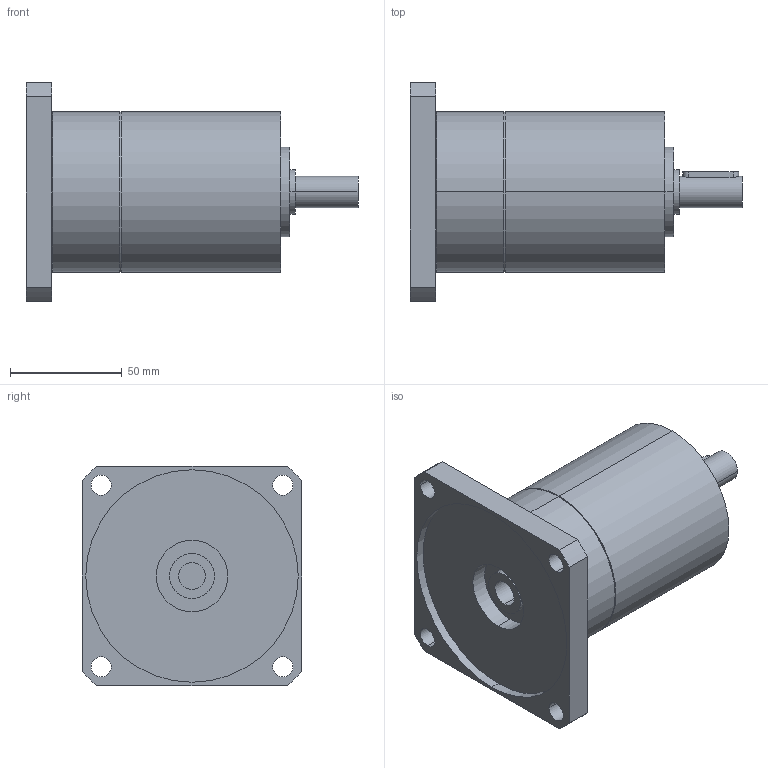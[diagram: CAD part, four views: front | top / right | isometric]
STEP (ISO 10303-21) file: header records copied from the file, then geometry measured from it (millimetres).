
FILE_DESCRIPTION(('CoCreate Modeling STEP Export'),'2;1');
FILE_NAME('GPT75_ig-9-12-16-20-25-28-35-40-50-70-100_14_B14T_12_P08.stp','2014-08-27T13:16:13',(''),(''),'CoCreate Modeling STEP processor for AP214 (Solid Model)','CoCreate Modeling 16.00C 25-Feb-2009 (C) Parametric Technology GmbH','');
FILE_SCHEMA(('AUTOMOTIVE_DESIGN { 1 0 10303 214 1 1 1 1 }'));
Length unit declared in the file: millimetre
Products named in the file (2): GPT75_ig-9-12-16-20-25-28-35-40-50-70-100_14_B14T_12_P08
Assembly tree (1 placements, depth 2):
  GPT75_ig-9-12-16-20-25-28-35-40-50-70-100_14_B14T_12_P08
    GPT75_ig-9-12-16-20-25-28-35-40-50-70-100_14_B14T_12_P08
Bounding box: 148.5 x 98 x 98 mm (x, y, z)
Volume: 496377.2 mm3; surface area: 53901.4 mm2
Topology: 1 solids, 1 shells, 69 faces, 161 edges, 108 vertices
Faces by surface type: cylinder 42, plane 23, cone 4
Entity records: 2136 total; most frequent: CARTESIAN_POINT 659, ORIENTED_EDGE 322, DIRECTION 262, EDGE_CURVE 161, VERTEX_POINT 108, AXIS2_PLACEMENT_3D 99, EDGE_LOOP 91, FACE_OUTER_BOUND 69
